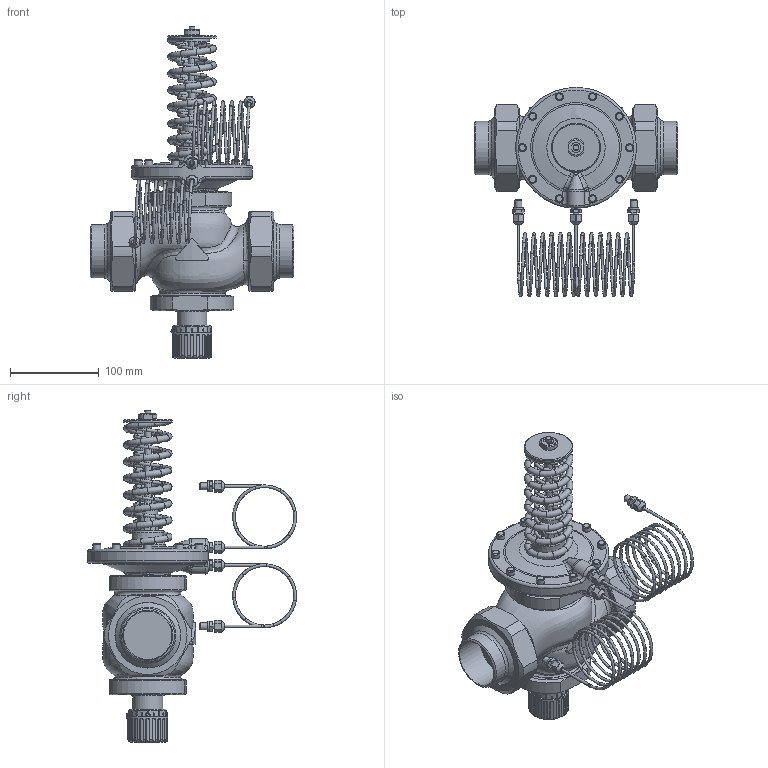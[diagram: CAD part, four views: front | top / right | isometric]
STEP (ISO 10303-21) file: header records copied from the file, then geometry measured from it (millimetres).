
FILE_DESCRIPTION(/* description */ (''),/* implementation_level */ '2;1');
FILE_NAME(/* name */ 'rd122p2_dn50_W.stp',/* time_stamp */ '2012-11-12T10:17:49+01:00',/* author */ ('JENIK'),/* organization */ ('LDM'),/* preprocessor_version */ 'ST-DEVELOPER v11',/* originating_system */ 'SIEMENS PLM Software NX 7.0',/* authorisation */ '');
FILE_SCHEMA (('CONFIG_CONTROL_DESIGN'));
Products named in the file (1): jeniB5D7d0nf
Bounding box: 230 x 235.73 x 374.4 mm (x, y, z)
Volume: 698401.7 mm3; surface area: 304083.9 mm2
Topology: 9 solids, 22 shells, 1250 faces, 2915 edges, 1753 vertices
Faces by surface type: torus 368, cylinder 358, plane 313, bspline 128, cone 75, sphere 8
Full cylindrical faces by diameter (mm): 2 x3, 2.5 x1, 3 x4, 4.891 x10, 6 x12, 6.5 x14, 6.6 x1, 7.794 x4, 8 x7, 9 x10, 12 x4, 22 x1, 24.5 x1, 30 x1, 33.8 x1, 35 x1, 37 x1, 38 x1, 40 x2, 43 x1, 54.5 x2, 55 x1, 60 x2, 60.3 x2, 73.8 x2, 74 x2, 77 x2, 77.8 x2, 78.576 x2, 81.534 x2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
Entity records: 47922 total; most frequent: CARTESIAN_POINT 22762, DIRECTION 5194, ORIENTED_EDGE 4654, EDGE_CURVE 2327, AXIS2_PLACEMENT_3D 2294, EDGE_LOOP 1809, VERTEX_POINT 1634, ADVANCED_FACE 1250
